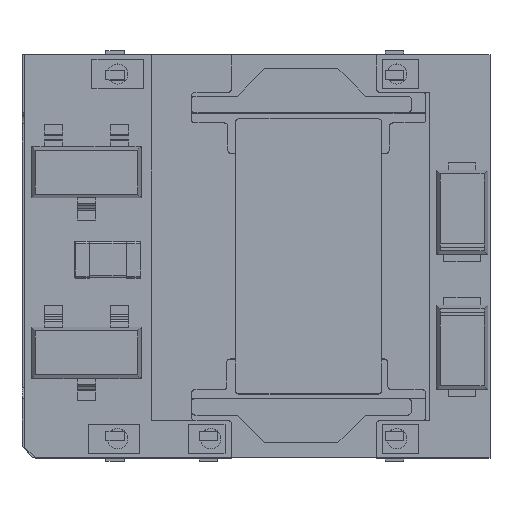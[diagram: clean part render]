
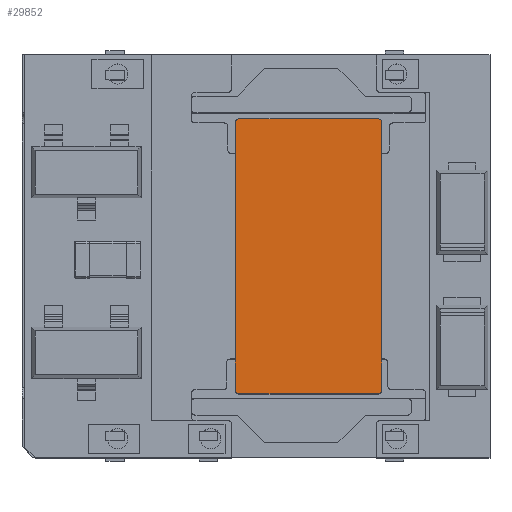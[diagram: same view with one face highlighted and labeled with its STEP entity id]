
A CAD part, top view. The second image highlights one B-rep face of the part: STEP entity #29852.
In plain terms, the highlighted planar face has unit normal (0, 0, 1).
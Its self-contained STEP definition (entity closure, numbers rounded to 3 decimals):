
#366 = ORIENTED_EDGE ( 'NONE', *, *, #2744, .T. ) ;
#705 = ORIENTED_EDGE ( 'NONE', *, *, #8645, .F. ) ;
#1571 = DIRECTION ( 'NONE',  ( 0., 0., 1. ) ) ;
#1698 = VERTEX_POINT ( 'NONE', #6157 ) ;
#1904 = FACE_OUTER_BOUND ( 'NONE', #21750, .T. ) ;
#2057 = DIRECTION ( 'NONE',  ( 0., 0., 1. ) ) ;
#2456 = CIRCLE ( 'NONE', #9606, 0.1 ) ;
#2699 = AXIS2_PLACEMENT_3D ( 'NONE', #8897, #30426, #16246 ) ;
#2744 = EDGE_CURVE ( 'NONE', #15633, #29797, #2456, .T. ) ;
#3670 = AXIS2_PLACEMENT_3D ( 'NONE', #31269, #19785, #12014 ) ;
#4304 = CARTESIAN_POINT ( 'NONE',  ( -3.75, -2., 0. ) ) ;
#4538 = LINE ( 'NONE', #14305, #4750 ) ;
#4750 = VECTOR ( 'NONE', #8886, 1000. ) ;
#4931 = ORIENTED_EDGE ( 'NONE', *, *, #14769, .T. ) ;
#5459 = ORIENTED_EDGE ( 'NONE', *, *, #12117, .T. ) ;
#5525 = ORIENTED_EDGE ( 'NONE', *, *, #18125, .F. ) ;
#5604 = CARTESIAN_POINT ( 'NONE',  ( -3.75, 1.9, 0. ) ) ;
#6157 = CARTESIAN_POINT ( 'NONE',  ( 3.75, 1.9, 0. ) ) ;
#7344 = VECTOR ( 'NONE', #9591, 1000. ) ;
#7350 = LINE ( 'NONE', #12310, #7344 ) ;
#7441 = AXIS2_PLACEMENT_3D ( 'NONE', #28209, #1571, #18362 ) ;
#7775 = VERTEX_POINT ( 'NONE', #5604 ) ;
#7961 = CARTESIAN_POINT ( 'NONE',  ( -3.65, 2., 0. ) ) ;
#8458 = CARTESIAN_POINT ( 'NONE',  ( 3.75, 0., 0. ) ) ;
#8473 = VERTEX_POINT ( 'NONE', #22296 ) ;
#8645 = EDGE_CURVE ( 'NONE', #17531, #29797, #4538, .T. ) ;
#8886 = DIRECTION ( 'NONE',  ( -1., 0., 0. ) ) ;
#8897 = CARTESIAN_POINT ( 'NONE',  ( -3.65, 1.9, 0. ) ) ;
#9591 = DIRECTION ( 'NONE',  ( 1., 0., 0. ) ) ;
#9606 = AXIS2_PLACEMENT_3D ( 'NONE', #12930, #30113, #18464 ) ;
#10892 = CIRCLE ( 'NONE', #2699, 0.1 ) ;
#11988 = CARTESIAN_POINT ( 'NONE',  ( -3.75, 0., 0. ) ) ;
#12014 = DIRECTION ( 'NONE',  ( 1., 0., 0. ) ) ;
#12117 = EDGE_CURVE ( 'NONE', #25234, #1698, #15483, .T. ) ;
#12162 = DIRECTION ( 'NONE',  ( 1., 0., 0. ) ) ;
#12310 = CARTESIAN_POINT ( 'NONE',  ( 0., 2., 0. ) ) ;
#12930 = CARTESIAN_POINT ( 'NONE',  ( -3.65, -1.9, 0. ) ) ;
#13617 = VERTEX_POINT ( 'NONE', #7961 ) ;
#14258 = ORIENTED_EDGE ( 'NONE', *, *, #24464, .T. ) ;
#14305 = CARTESIAN_POINT ( 'NONE',  ( 0., -2., 0. ) ) ;
#14522 = DIRECTION ( 'NONE',  ( 0., -1., 0. ) ) ;
#14769 = EDGE_CURVE ( 'NONE', #13617, #7775, #10892, .T. ) ;
#15483 = LINE ( 'NONE', #8458, #19667 ) ;
#15633 = VERTEX_POINT ( 'NONE', #22354 ) ;
#16246 = DIRECTION ( 'NONE',  ( 1., 0., 0. ) ) ;
#17531 = VERTEX_POINT ( 'NONE', #29436 ) ;
#18125 = EDGE_CURVE ( 'NONE', #13617, #8473, #7350, .T. ) ;
#18234 = CARTESIAN_POINT ( 'NONE',  ( -3.65, -2., 0. ) ) ;
#18362 = DIRECTION ( 'NONE',  ( 1., 0., 0. ) ) ;
#18464 = DIRECTION ( 'NONE',  ( 1., 0., 0. ) ) ;
#19168 = CARTESIAN_POINT ( 'NONE',  ( 3.75, -1.9, 0. ) ) ;
#19667 = VECTOR ( 'NONE', #29972, 1000. ) ;
#19785 = DIRECTION ( 'NONE',  ( 0., 0., 1. ) ) ;
#20541 = VECTOR ( 'NONE', #14522, 1000. ) ;
#21750 = EDGE_LOOP ( 'NONE', ( #5459, #31073, #5525, #4931, #31077, #366, #705, #14258 ) ) ;
#21876 = EDGE_CURVE ( 'NONE', #1698, #8473, #29836, .T. ) ;
#22296 = CARTESIAN_POINT ( 'NONE',  ( 3.65, 2., 0. ) ) ;
#22354 = CARTESIAN_POINT ( 'NONE',  ( -3.75, -1.9, 0. ) ) ;
#24464 = EDGE_CURVE ( 'NONE', #17531, #25234, #30205, .T. ) ;
#25234 = VERTEX_POINT ( 'NONE', #19168 ) ;
#26542 = EDGE_CURVE ( 'NONE', #7775, #15633, #29510, .T. ) ;
#28209 = CARTESIAN_POINT ( 'NONE',  ( 3.65, 1.9, 0. ) ) ;
#29021 = PLANE ( 'NONE',  #31477 ) ;
#29436 = CARTESIAN_POINT ( 'NONE',  ( 3.65, -2., 0. ) ) ;
#29510 = LINE ( 'NONE', #11988, #20541 ) ;
#29797 = VERTEX_POINT ( 'NONE', #18234 ) ;
#29836 = CIRCLE ( 'NONE', #7441, 0.1 ) ;
#29852 = ADVANCED_FACE ( 'NONE', ( #1904 ), #29021, .T. ) ;
#29972 = DIRECTION ( 'NONE',  ( 0., 1., 0. ) ) ;
#30113 = DIRECTION ( 'NONE',  ( 0., 0., 1. ) ) ;
#30205 = CIRCLE ( 'NONE', #3670, 0.1 ) ;
#30426 = DIRECTION ( 'NONE',  ( 0., 0., 1. ) ) ;
#31073 = ORIENTED_EDGE ( 'NONE', *, *, #21876, .T. ) ;
#31077 = ORIENTED_EDGE ( 'NONE', *, *, #26542, .T. ) ;
#31269 = CARTESIAN_POINT ( 'NONE',  ( 3.65, -1.9, 0. ) ) ;
#31477 = AXIS2_PLACEMENT_3D ( 'NONE', #4304, #2057, #12162 ) ;
